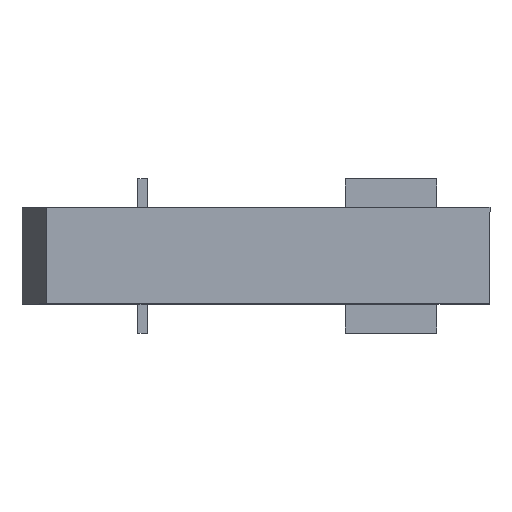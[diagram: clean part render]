
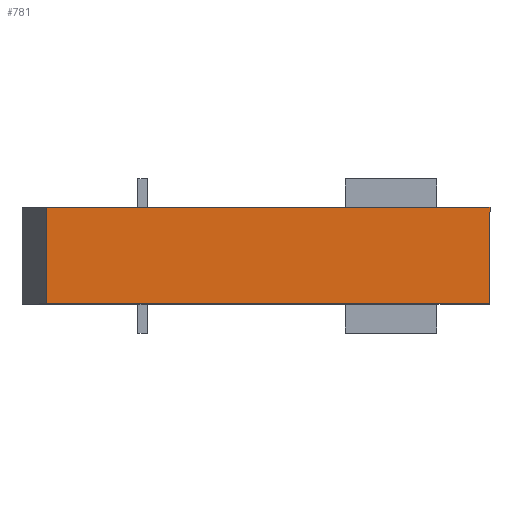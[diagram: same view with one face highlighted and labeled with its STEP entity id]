
A CAD part, top view. The second image highlights one B-rep face of the part: STEP entity #781.
In plain terms, the highlighted planar face has unit normal (0, 0, 1).
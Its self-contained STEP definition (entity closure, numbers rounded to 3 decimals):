
#47 = CARTESIAN_POINT ( 'NONE',  ( 11.548, -37.2, 6.4 ) ) ;
#72 = CARTESIAN_POINT ( 'NONE',  ( 11.548, -27.2, 6.4 ) ) ;
#78 = LINE ( 'NONE', #523, #962 ) ;
#99 = EDGE_CURVE ( 'NONE', #580, #1216, #1150, .T. ) ;
#116 = DIRECTION ( 'NONE',  ( -1., 0., 0. ) ) ;
#190 = CARTESIAN_POINT ( 'NONE',  ( 9., -37.2, 6.4 ) ) ;
#226 = CARTESIAN_POINT ( 'NONE',  ( 57.5, -27.2, 6.4 ) ) ;
#228 = VECTOR ( 'NONE', #1069, 1000. ) ;
#253 = AXIS2_PLACEMENT_3D ( 'NONE', #560, #776, #116 ) ;
#353 = VERTEX_POINT ( 'NONE', #1366 ) ;
#419 = CARTESIAN_POINT ( 'NONE',  ( 57.5, -37.2, 6.4 ) ) ;
#444 = EDGE_CURVE ( 'NONE', #580, #353, #78, .T. ) ;
#448 = PLANE ( 'NONE',  #253 ) ;
#484 = EDGE_CURVE ( 'NONE', #1216, #1036, #1362, .T. ) ;
#523 = CARTESIAN_POINT ( 'NONE',  ( 9., -27.2, 6.4 ) ) ;
#560 = CARTESIAN_POINT ( 'NONE',  ( 9., -27.2, 6.4 ) ) ;
#580 = VERTEX_POINT ( 'NONE', #1406 ) ;
#615 = ORIENTED_EDGE ( 'NONE', *, *, #484, .F. ) ;
#770 = LINE ( 'NONE', #72, #1031 ) ;
#776 = DIRECTION ( 'NONE',  ( 0., 0., -1. ) ) ;
#781 = ADVANCED_FACE ( 'NONE', ( #921 ), #448, .F. ) ;
#833 = VECTOR ( 'NONE', #998, 1000. ) ;
#921 = FACE_OUTER_BOUND ( 'NONE', #1402, .T. ) ;
#958 = DIRECTION ( 'NONE',  ( 0., -1., 0. ) ) ;
#962 = VECTOR ( 'NONE', #1278, 1000. ) ;
#983 = ORIENTED_EDGE ( 'NONE', *, *, #99, .F. ) ;
#998 = DIRECTION ( 'NONE',  ( 0., -1., 0. ) ) ;
#1031 = VECTOR ( 'NONE', #958, 1000. ) ;
#1036 = VERTEX_POINT ( 'NONE', #47 ) ;
#1069 = DIRECTION ( 'NONE',  ( -1., 0., 0. ) ) ;
#1147 = ORIENTED_EDGE ( 'NONE', *, *, #444, .T. ) ;
#1150 = LINE ( 'NONE', #226, #833 ) ;
#1186 = EDGE_CURVE ( 'NONE', #353, #1036, #770, .T. ) ;
#1216 = VERTEX_POINT ( 'NONE', #419 ) ;
#1278 = DIRECTION ( 'NONE',  ( -1., 0., 0. ) ) ;
#1362 = LINE ( 'NONE', #190, #228 ) ;
#1366 = CARTESIAN_POINT ( 'NONE',  ( 11.548, -27.2, 6.4 ) ) ;
#1389 = ORIENTED_EDGE ( 'NONE', *, *, #1186, .T. ) ;
#1402 = EDGE_LOOP ( 'NONE', ( #983, #1147, #1389, #615 ) ) ;
#1406 = CARTESIAN_POINT ( 'NONE',  ( 57.5, -27.2, 6.4 ) ) ;
